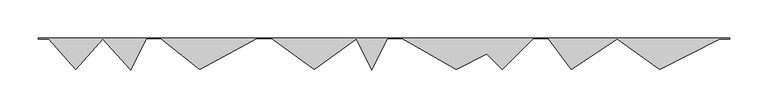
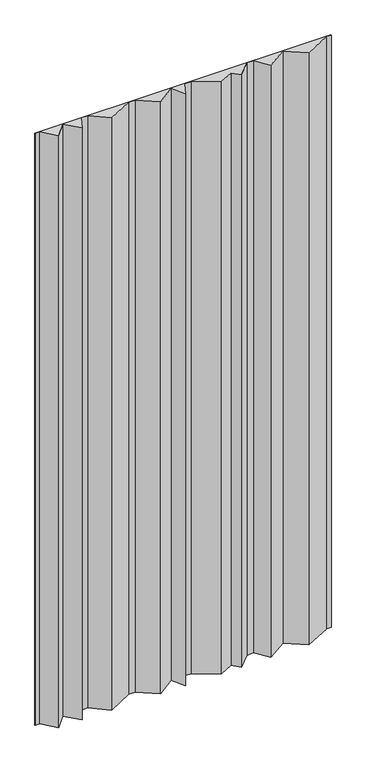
"""IFC4 building model written with IfcOpenShell, lengths in millimetres: plate geometry, ATELIERS 3S_GLACE BOSSONS 900_VERTICAL : AZURO."""

from ifc_helpers import new_model, si_unit, origin, origin_with_axes, place, context, project, spatial, polyline, outline, extrude, source, transform, mapped, element, save


def plate_7a9f71c7(model_context):
    return source(origin(), model_context, "Body", "SweptSolid", [
        extrude(outline(polyline([(-436.3428081, -0.8), (-450.0000002, -0.8), (-450.0000002, 0.0), (449.9999998, 0.0), (449.9999998, -0.8), (437.0373636, -0.8), (358.8856252, -40.8778146), (303.9351265, -0.9138155), (243.779462, -41.0175919), (213.5787681, -0.75), (194.2644282, -0.75), (153.9537681, -41.0606602), (133.8056783, -20.9125704), (93.9310673, -40.8498759), (23.6882036, -0.75), (4.4172936, -0.75), (-16.0462319, -41.677051), (-36.3211139, -1.1272871), (-91.0462319, -40.927373), (-146.2901198, -0.75), (-165.8565014, -0.75), (-240.1246274, -40.894933), (-290.397013, -0.75), (-309.5827064, -0.75), (-329.8675448, -41.3196766), (-366.0383308, -1.1299144), (-401.0462319, -41.1389442), (-436.3428081, -0.8)])), origin_with_axes(), (0.0, 0.0, 1.0), 1900.0),
    ])


if __name__ == "__main__":
    model = new_model("IFC4")
    model_context = context("Model", 3, world=origin())
    ifc_project = project(units=[si_unit("LENGTHUNIT", "METRE", prefix="MILLI")], contexts=[model_context])
    site = spatial("IfcSite", under=ifc_project)
    building = spatial("IfcBuilding", under=site)
    placement = place(None, origin())
    plate_shape = plate_7a9f71c7(model_context)
    element("IfcPlate", 1, ObjectType="ATELIERS 3S_GLACE BOSSONS 900_VERTICAL : AZURO", at=placement, inside=building, context=model_context, shape_type="MappedRepresentation", body=[
        mapped(plate_shape, transform((0.0, 0.0, 0.0), x_axis=(1.0, 0.0, 0.0), y_axis=(0.0, 1.0, 0.0), z_axis=(0.0, 0.0, 1.0))),
    ])
    save(model, "model.ifc")
